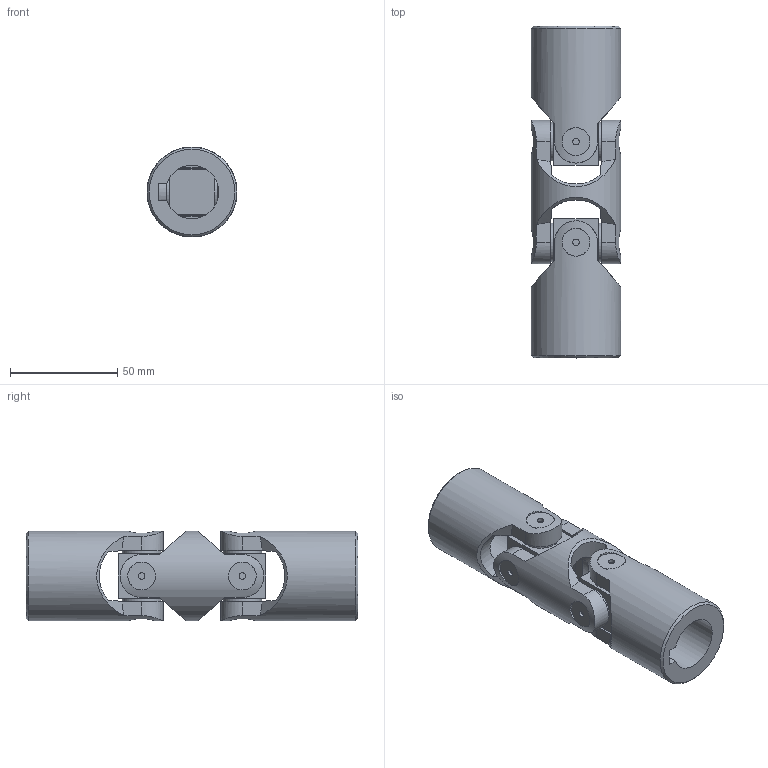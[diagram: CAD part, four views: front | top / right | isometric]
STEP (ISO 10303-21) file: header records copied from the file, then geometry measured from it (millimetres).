
FILE_DESCRIPTION(/* description */ (''),/* implementation_level */ '2;1');
FILE_NAME(/* name */ '\\SRV2016\Societa\Stefano\Disegni 3D\00Catalogo 3D\02Doppi GD-GBD\SGBD251C.stp',/* time_stamp */ '2021-11-23T13:34:49+01:00',/* author */ ('acquisti'),/* organization */ (''),/* preprocessor_version */ 'ST-DEVELOPER v15.6',/* originating_system */ 'Autodesk Inventor 2015',/* authorisation */ '');
FILE_SCHEMA (('AUTOMOTIVE_DESIGN { 1 0 10303 214 3 1 1 }'));
Length unit declared in the file: millimetre
Products named in the file (5): 3G MOD; 3G SFE; 5GB MOC; 5GB MOS; Ø42_5GBD-00_SGBD2500
Assembly tree (5 placements, depth 2):
  Ø42_5GBD-00_SGBD2500
    3G MOD
    3G SFE  x2
    5GB MOC
    5GB MOS
Bounding box: 42 x 155 x 42 mm (x, y, z)
Volume: 132056.6 mm3; surface area: 40503.4 mm2
Topology: 5 solids, 5 shells, 164 faces, 388 edges, 254 vertices
Faces by surface type: plane 77, cylinder 63, cone 20, torus 4
Full cylindrical faces by diameter (mm): 3 x8, 18 x8, 22 x2, 25 x1, 42 x3
Entity records: 5083 total; most frequent: CARTESIAN_POINT 1783, ORIENTED_EDGE 668, DIRECTION 625, EDGE_CURVE 334, AXIS2_PLACEMENT_3D 279, VERTEX_POINT 234, EDGE_LOOP 198, FACE_OUTER_BOUND 150
